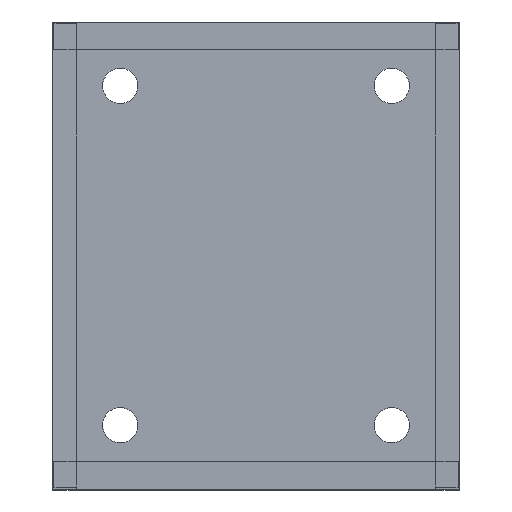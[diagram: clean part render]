
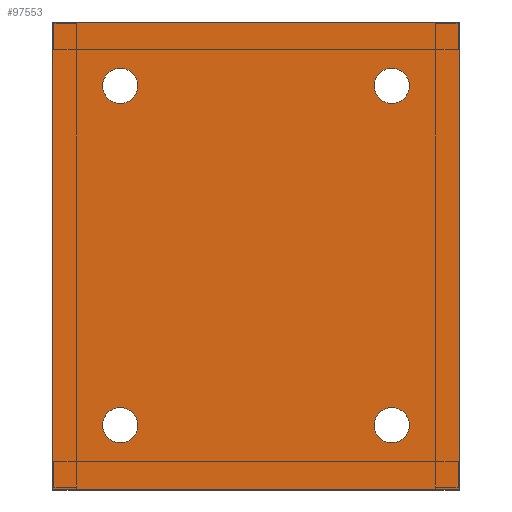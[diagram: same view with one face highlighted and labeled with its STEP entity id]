
A CAD part, top view. The second image highlights one B-rep face of the part: STEP entity #97553.
In plain terms, the highlighted planar face has unit normal (0, 0, 1).
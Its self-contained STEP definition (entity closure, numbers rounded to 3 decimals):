
#97364 = VERTEX_POINT('',#97365);
#97365 = CARTESIAN_POINT('',(0.,0.,625.));
#97372 = PLANE('',#97373);
#97373 = AXIS2_PLACEMENT_3D('',#97374,#97375,#97376);
#97374 = CARTESIAN_POINT('',(0.,0.,623.));
#97375 = DIRECTION('',(1.,0.,-0.));
#97376 = DIRECTION('',(0.,0.,1.));
#97384 = PLANE('',#97385);
#97385 = AXIS2_PLACEMENT_3D('',#97386,#97387,#97388);
#97386 = CARTESIAN_POINT('',(0.,0.,623.));
#97387 = DIRECTION('',(-0.,1.,0.));
#97388 = DIRECTION('',(0.,0.,1.));
#97425 = VERTEX_POINT('',#97426);
#97426 = CARTESIAN_POINT('',(0.,585.,625.));
#97440 = PLANE('',#97441);
#97441 = AXIS2_PLACEMENT_3D('',#97442,#97443,#97444);
#97442 = CARTESIAN_POINT('',(0.,585.,623.));
#97443 = DIRECTION('',(-0.,1.,0.));
#97444 = DIRECTION('',(0.,0.,1.));
#97452 = EDGE_CURVE('',#97364,#97425,#97453,.T.);
#97453 = SURFACE_CURVE('',#97454,(#97458,#97465),.PCURVE_S1.);
#97454 = LINE('',#97455,#97456);
#97455 = CARTESIAN_POINT('',(0.,0.,625.));
#97456 = VECTOR('',#97457,1.);
#97457 = DIRECTION('',(-0.,1.,0.));
#97458 = PCURVE('',#97372,#97459);
#97459 = DEFINITIONAL_REPRESENTATION('',(#97460),#97464);
#97460 = LINE('',#97461,#97462);
#97461 = CARTESIAN_POINT('',(2.,0.));
#97462 = VECTOR('',#97463,1.);
#97463 = DIRECTION('',(0.,-1.));
#97464 = ( GEOMETRIC_REPRESENTATION_CONTEXT(2) 
PARAMETRIC_REPRESENTATION_CONTEXT() REPRESENTATION_CONTEXT('2D SPACE',''
  ) );
#97465 = PCURVE('',#97466,#97471);
#97466 = PLANE('',#97467);
#97467 = AXIS2_PLACEMENT_3D('',#97468,#97469,#97470);
#97468 = CARTESIAN_POINT('',(0.,0.,625.));
#97469 = DIRECTION('',(0.,0.,1.));
#97470 = DIRECTION('',(1.,0.,-0.));
#97471 = DEFINITIONAL_REPRESENTATION('',(#97472),#97476);
#97472 = LINE('',#97473,#97474);
#97473 = CARTESIAN_POINT('',(0.,0.));
#97474 = VECTOR('',#97475,1.);
#97475 = DIRECTION('',(0.,1.));
#97476 = ( GEOMETRIC_REPRESENTATION_CONTEXT(2) 
PARAMETRIC_REPRESENTATION_CONTEXT() REPRESENTATION_CONTEXT('2D SPACE',''
  ) );
#97505 = EDGE_CURVE('',#97364,#97506,#97508,.T.);
#97506 = VERTEX_POINT('',#97507);
#97507 = CARTESIAN_POINT('',(510.,0.,625.));
#97508 = SURFACE_CURVE('',#97509,(#97513,#97520),.PCURVE_S1.);
#97509 = LINE('',#97510,#97511);
#97510 = CARTESIAN_POINT('',(0.,0.,625.));
#97511 = VECTOR('',#97512,1.);
#97512 = DIRECTION('',(1.,0.,-0.));
#97513 = PCURVE('',#97384,#97514);
#97514 = DEFINITIONAL_REPRESENTATION('',(#97515),#97519);
#97515 = LINE('',#97516,#97517);
#97516 = CARTESIAN_POINT('',(2.,0.));
#97517 = VECTOR('',#97518,1.);
#97518 = DIRECTION('',(0.,1.));
#97519 = ( GEOMETRIC_REPRESENTATION_CONTEXT(2) 
PARAMETRIC_REPRESENTATION_CONTEXT() REPRESENTATION_CONTEXT('2D SPACE',''
  ) );
#97520 = PCURVE('',#97466,#97521);
#97521 = DEFINITIONAL_REPRESENTATION('',(#97522),#97526);
#97522 = LINE('',#97523,#97524);
#97523 = CARTESIAN_POINT('',(0.,0.));
#97524 = VECTOR('',#97525,1.);
#97525 = DIRECTION('',(1.,0.));
#97526 = ( GEOMETRIC_REPRESENTATION_CONTEXT(2) 
PARAMETRIC_REPRESENTATION_CONTEXT() REPRESENTATION_CONTEXT('2D SPACE',''
  ) );
#97542 = PLANE('',#97543);
#97543 = AXIS2_PLACEMENT_3D('',#97544,#97545,#97546);
#97544 = CARTESIAN_POINT('',(510.,0.,623.));
#97545 = DIRECTION('',(1.,0.,-0.));
#97546 = DIRECTION('',(0.,0.,1.));
#97553 = ADVANCED_FACE('',(#97554,#97602,#97633,#97664,#97695),#97466,
  .T.);
#97554 = FACE_BOUND('',#97555,.T.);
#97555 = EDGE_LOOP('',(#97556,#97557,#97558,#97581));
#97556 = ORIENTED_EDGE('',*,*,#97452,.F.);
#97557 = ORIENTED_EDGE('',*,*,#97505,.T.);
#97558 = ORIENTED_EDGE('',*,*,#97559,.T.);
#97559 = EDGE_CURVE('',#97506,#97560,#97562,.T.);
#97560 = VERTEX_POINT('',#97561);
#97561 = CARTESIAN_POINT('',(510.,585.,625.));
#97562 = SURFACE_CURVE('',#97563,(#97567,#97574),.PCURVE_S1.);
#97563 = LINE('',#97564,#97565);
#97564 = CARTESIAN_POINT('',(510.,0.,625.));
#97565 = VECTOR('',#97566,1.);
#97566 = DIRECTION('',(-0.,1.,0.));
#97567 = PCURVE('',#97466,#97568);
#97568 = DEFINITIONAL_REPRESENTATION('',(#97569),#97573);
#97569 = LINE('',#97570,#97571);
#97570 = CARTESIAN_POINT('',(510.,0.));
#97571 = VECTOR('',#97572,1.);
#97572 = DIRECTION('',(0.,1.));
#97573 = ( GEOMETRIC_REPRESENTATION_CONTEXT(2) 
PARAMETRIC_REPRESENTATION_CONTEXT() REPRESENTATION_CONTEXT('2D SPACE',''
  ) );
#97574 = PCURVE('',#97542,#97575);
#97575 = DEFINITIONAL_REPRESENTATION('',(#97576),#97580);
#97576 = LINE('',#97577,#97578);
#97577 = CARTESIAN_POINT('',(2.,0.));
#97578 = VECTOR('',#97579,1.);
#97579 = DIRECTION('',(0.,-1.));
#97580 = ( GEOMETRIC_REPRESENTATION_CONTEXT(2) 
PARAMETRIC_REPRESENTATION_CONTEXT() REPRESENTATION_CONTEXT('2D SPACE',''
  ) );
#97581 = ORIENTED_EDGE('',*,*,#97582,.F.);
#97582 = EDGE_CURVE('',#97425,#97560,#97583,.T.);
#97583 = SURFACE_CURVE('',#97584,(#97588,#97595),.PCURVE_S1.);
#97584 = LINE('',#97585,#97586);
#97585 = CARTESIAN_POINT('',(0.,585.,625.));
#97586 = VECTOR('',#97587,1.);
#97587 = DIRECTION('',(1.,0.,-0.));
#97588 = PCURVE('',#97466,#97589);
#97589 = DEFINITIONAL_REPRESENTATION('',(#97590),#97594);
#97590 = LINE('',#97591,#97592);
#97591 = CARTESIAN_POINT('',(0.,585.));
#97592 = VECTOR('',#97593,1.);
#97593 = DIRECTION('',(1.,0.));
#97594 = ( GEOMETRIC_REPRESENTATION_CONTEXT(2) 
PARAMETRIC_REPRESENTATION_CONTEXT() REPRESENTATION_CONTEXT('2D SPACE',''
  ) );
#97595 = PCURVE('',#97440,#97596);
#97596 = DEFINITIONAL_REPRESENTATION('',(#97597),#97601);
#97597 = LINE('',#97598,#97599);
#97598 = CARTESIAN_POINT('',(2.,0.));
#97599 = VECTOR('',#97600,1.);
#97600 = DIRECTION('',(0.,1.));
#97601 = ( GEOMETRIC_REPRESENTATION_CONTEXT(2) 
PARAMETRIC_REPRESENTATION_CONTEXT() REPRESENTATION_CONTEXT('2D SPACE',''
  ) );
#97602 = FACE_BOUND('',#97603,.T.);
#97603 = EDGE_LOOP('',(#97604));
#97604 = ORIENTED_EDGE('',*,*,#97605,.F.);
#97605 = EDGE_CURVE('',#97606,#97606,#97608,.T.);
#97606 = VERTEX_POINT('',#97607);
#97607 = CARTESIAN_POINT('',(107.,80.,625.));
#97608 = SURFACE_CURVE('',#97609,(#97614,#97621),.PCURVE_S1.);
#97609 = CIRCLE('',#97610,22.);
#97610 = AXIS2_PLACEMENT_3D('',#97611,#97612,#97613);
#97611 = CARTESIAN_POINT('',(85.,80.,625.));
#97612 = DIRECTION('',(0.,0.,1.));
#97613 = DIRECTION('',(1.,0.,-0.));
#97614 = PCURVE('',#97466,#97615);
#97615 = DEFINITIONAL_REPRESENTATION('',(#97616),#97620);
#97616 = CIRCLE('',#97617,22.);
#97617 = AXIS2_PLACEMENT_2D('',#97618,#97619);
#97618 = CARTESIAN_POINT('',(85.,80.));
#97619 = DIRECTION('',(1.,0.));
#97620 = ( GEOMETRIC_REPRESENTATION_CONTEXT(2) 
PARAMETRIC_REPRESENTATION_CONTEXT() REPRESENTATION_CONTEXT('2D SPACE',''
  ) );
#97621 = PCURVE('',#97622,#97627);
#97622 = CYLINDRICAL_SURFACE('',#97623,22.);
#97623 = AXIS2_PLACEMENT_3D('',#97624,#97625,#97626);
#97624 = CARTESIAN_POINT('',(85.,80.,622.));
#97625 = DIRECTION('',(0.,0.,1.));
#97626 = DIRECTION('',(1.,0.,-0.));
#97627 = DEFINITIONAL_REPRESENTATION('',(#97628),#97632);
#97628 = LINE('',#97629,#97630);
#97629 = CARTESIAN_POINT('',(0.,3.));
#97630 = VECTOR('',#97631,1.);
#97631 = DIRECTION('',(1.,0.));
#97632 = ( GEOMETRIC_REPRESENTATION_CONTEXT(2) 
PARAMETRIC_REPRESENTATION_CONTEXT() REPRESENTATION_CONTEXT('2D SPACE',''
  ) );
#97633 = FACE_BOUND('',#97634,.T.);
#97634 = EDGE_LOOP('',(#97635));
#97635 = ORIENTED_EDGE('',*,*,#97636,.F.);
#97636 = EDGE_CURVE('',#97637,#97637,#97639,.T.);
#97637 = VERTEX_POINT('',#97638);
#97638 = CARTESIAN_POINT('',(447.,80.,625.));
#97639 = SURFACE_CURVE('',#97640,(#97645,#97652),.PCURVE_S1.);
#97640 = CIRCLE('',#97641,22.);
#97641 = AXIS2_PLACEMENT_3D('',#97642,#97643,#97644);
#97642 = CARTESIAN_POINT('',(425.,80.,625.));
#97643 = DIRECTION('',(0.,0.,1.));
#97644 = DIRECTION('',(1.,0.,-0.));
#97645 = PCURVE('',#97466,#97646);
#97646 = DEFINITIONAL_REPRESENTATION('',(#97647),#97651);
#97647 = CIRCLE('',#97648,22.);
#97648 = AXIS2_PLACEMENT_2D('',#97649,#97650);
#97649 = CARTESIAN_POINT('',(425.,80.));
#97650 = DIRECTION('',(1.,0.));
#97651 = ( GEOMETRIC_REPRESENTATION_CONTEXT(2) 
PARAMETRIC_REPRESENTATION_CONTEXT() REPRESENTATION_CONTEXT('2D SPACE',''
  ) );
#97652 = PCURVE('',#97653,#97658);
#97653 = CYLINDRICAL_SURFACE('',#97654,22.);
#97654 = AXIS2_PLACEMENT_3D('',#97655,#97656,#97657);
#97655 = CARTESIAN_POINT('',(425.,80.,622.));
#97656 = DIRECTION('',(0.,0.,1.));
#97657 = DIRECTION('',(1.,0.,-0.));
#97658 = DEFINITIONAL_REPRESENTATION('',(#97659),#97663);
#97659 = LINE('',#97660,#97661);
#97660 = CARTESIAN_POINT('',(0.,3.));
#97661 = VECTOR('',#97662,1.);
#97662 = DIRECTION('',(1.,0.));
#97663 = ( GEOMETRIC_REPRESENTATION_CONTEXT(2) 
PARAMETRIC_REPRESENTATION_CONTEXT() REPRESENTATION_CONTEXT('2D SPACE',''
  ) );
#97664 = FACE_BOUND('',#97665,.T.);
#97665 = EDGE_LOOP('',(#97666));
#97666 = ORIENTED_EDGE('',*,*,#97667,.F.);
#97667 = EDGE_CURVE('',#97668,#97668,#97670,.T.);
#97668 = VERTEX_POINT('',#97669);
#97669 = CARTESIAN_POINT('',(107.,505.,625.));
#97670 = SURFACE_CURVE('',#97671,(#97676,#97683),.PCURVE_S1.);
#97671 = CIRCLE('',#97672,22.);
#97672 = AXIS2_PLACEMENT_3D('',#97673,#97674,#97675);
#97673 = CARTESIAN_POINT('',(85.,505.,625.));
#97674 = DIRECTION('',(0.,0.,1.));
#97675 = DIRECTION('',(1.,0.,-0.));
#97676 = PCURVE('',#97466,#97677);
#97677 = DEFINITIONAL_REPRESENTATION('',(#97678),#97682);
#97678 = CIRCLE('',#97679,22.);
#97679 = AXIS2_PLACEMENT_2D('',#97680,#97681);
#97680 = CARTESIAN_POINT('',(85.,505.));
#97681 = DIRECTION('',(1.,0.));
#97682 = ( GEOMETRIC_REPRESENTATION_CONTEXT(2) 
PARAMETRIC_REPRESENTATION_CONTEXT() REPRESENTATION_CONTEXT('2D SPACE',''
  ) );
#97683 = PCURVE('',#97684,#97689);
#97684 = CYLINDRICAL_SURFACE('',#97685,22.);
#97685 = AXIS2_PLACEMENT_3D('',#97686,#97687,#97688);
#97686 = CARTESIAN_POINT('',(85.,505.,622.));
#97687 = DIRECTION('',(0.,0.,1.));
#97688 = DIRECTION('',(1.,0.,-0.));
#97689 = DEFINITIONAL_REPRESENTATION('',(#97690),#97694);
#97690 = LINE('',#97691,#97692);
#97691 = CARTESIAN_POINT('',(0.,3.));
#97692 = VECTOR('',#97693,1.);
#97693 = DIRECTION('',(1.,0.));
#97694 = ( GEOMETRIC_REPRESENTATION_CONTEXT(2) 
PARAMETRIC_REPRESENTATION_CONTEXT() REPRESENTATION_CONTEXT('2D SPACE',''
  ) );
#97695 = FACE_BOUND('',#97696,.T.);
#97696 = EDGE_LOOP('',(#97697));
#97697 = ORIENTED_EDGE('',*,*,#97698,.F.);
#97698 = EDGE_CURVE('',#97699,#97699,#97701,.T.);
#97699 = VERTEX_POINT('',#97700);
#97700 = CARTESIAN_POINT('',(447.,505.,625.));
#97701 = SURFACE_CURVE('',#97702,(#97707,#97714),.PCURVE_S1.);
#97702 = CIRCLE('',#97703,22.);
#97703 = AXIS2_PLACEMENT_3D('',#97704,#97705,#97706);
#97704 = CARTESIAN_POINT('',(425.,505.,625.));
#97705 = DIRECTION('',(0.,0.,1.));
#97706 = DIRECTION('',(1.,0.,-0.));
#97707 = PCURVE('',#97466,#97708);
#97708 = DEFINITIONAL_REPRESENTATION('',(#97709),#97713);
#97709 = CIRCLE('',#97710,22.);
#97710 = AXIS2_PLACEMENT_2D('',#97711,#97712);
#97711 = CARTESIAN_POINT('',(425.,505.));
#97712 = DIRECTION('',(1.,0.));
#97713 = ( GEOMETRIC_REPRESENTATION_CONTEXT(2) 
PARAMETRIC_REPRESENTATION_CONTEXT() REPRESENTATION_CONTEXT('2D SPACE',''
  ) );
#97714 = PCURVE('',#97715,#97720);
#97715 = CYLINDRICAL_SURFACE('',#97716,22.);
#97716 = AXIS2_PLACEMENT_3D('',#97717,#97718,#97719);
#97717 = CARTESIAN_POINT('',(425.,505.,622.));
#97718 = DIRECTION('',(0.,0.,1.));
#97719 = DIRECTION('',(1.,0.,-0.));
#97720 = DEFINITIONAL_REPRESENTATION('',(#97721),#97725);
#97721 = LINE('',#97722,#97723);
#97722 = CARTESIAN_POINT('',(0.,3.));
#97723 = VECTOR('',#97724,1.);
#97724 = DIRECTION('',(1.,0.));
#97725 = ( GEOMETRIC_REPRESENTATION_CONTEXT(2) 
PARAMETRIC_REPRESENTATION_CONTEXT() REPRESENTATION_CONTEXT('2D SPACE',''
  ) );
